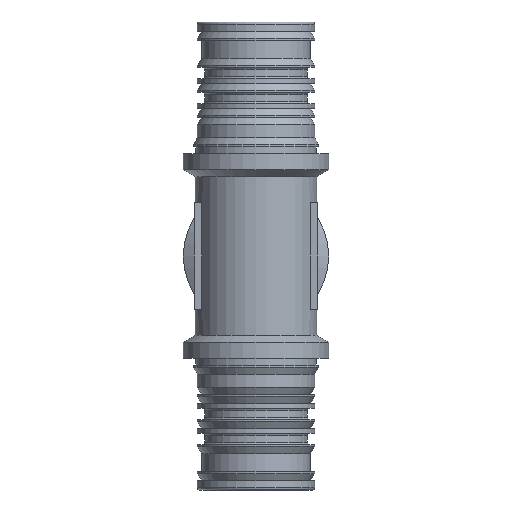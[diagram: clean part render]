
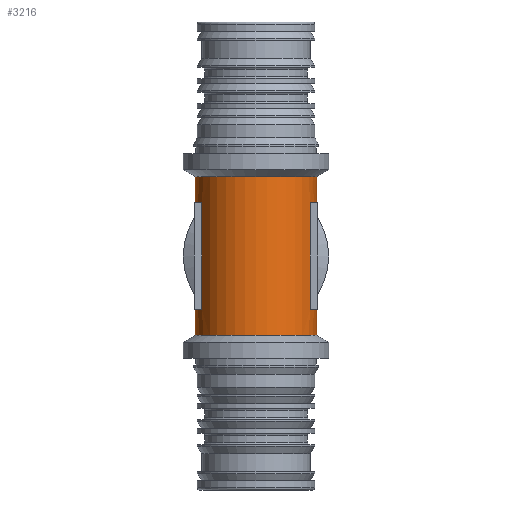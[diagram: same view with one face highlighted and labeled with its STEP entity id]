
A CAD part, front view. The second image highlights one B-rep face of the part: STEP entity #3216.
In plain terms, the highlighted cylindrical face has radius 13.35 mm (diameter 26.7 mm), a full revolution.
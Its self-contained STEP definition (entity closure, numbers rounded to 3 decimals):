
#188=ELLIPSE('',#3377,18.88,13.35);
#189=ELLIPSE('',#3379,18.88,13.35);
#190=ELLIPSE('',#3380,18.88,13.35);
#191=ELLIPSE('',#3382,18.88,13.35);
#236=FACE_OUTER_BOUND('',#427,.T.);
#427=EDGE_LOOP('',(#2369,#2370,#2371,#2372,#2373,#2374,#2375,#2376,#2377,
#2378,#2379,#2380,#2381,#2382,#2383,#2384,#2385,#2386,#2387,#2388,#2389,
#2390));
#644=LINE('',#5203,#850);
#645=LINE('',#5205,#851);
#646=LINE('',#5209,#852);
#647=LINE('',#5212,#853);
#648=LINE('',#5214,#854);
#649=LINE('',#5219,#855);
#650=LINE('',#5223,#856);
#651=LINE('',#5226,#857);
#850=VECTOR('',#4115,13.35);
#851=VECTOR('',#4116,10.);
#852=VECTOR('',#4119,10.);
#853=VECTOR('',#4122,10.);
#854=VECTOR('',#4123,13.35);
#855=VECTOR('',#4128,10.);
#856=VECTOR('',#4131,10.);
#857=VECTOR('',#4134,10.);
#1103=CIRCLE('',#3502,13.35);
#1104=CIRCLE('',#3503,13.35);
#1105=CIRCLE('',#3504,13.35);
#1106=CIRCLE('',#3505,13.35);
#1107=CIRCLE('',#3506,13.35);
#1108=CIRCLE('',#3507,13.35);
#1109=CIRCLE('',#3508,13.35);
#1110=CIRCLE('',#3509,13.35);
#1294=VERTEX_POINT('',#4955);
#1295=VERTEX_POINT('',#4957);
#1298=VERTEX_POINT('',#4963);
#1299=VERTEX_POINT('',#4965);
#1300=VERTEX_POINT('',#4967);
#1303=VERTEX_POINT('',#4973);
#1379=VERTEX_POINT('',#5199);
#1380=VERTEX_POINT('',#5200);
#1381=VERTEX_POINT('',#5204);
#1382=VERTEX_POINT('',#5206);
#1383=VERTEX_POINT('',#5208);
#1384=VERTEX_POINT('',#5210);
#1385=VERTEX_POINT('',#5213);
#1386=VERTEX_POINT('',#5215);
#1387=VERTEX_POINT('',#5218);
#1388=VERTEX_POINT('',#5220);
#1389=VERTEX_POINT('',#5222);
#1390=VERTEX_POINT('',#5224);
#1650=EDGE_CURVE('',#1295,#1294,#188,.T.);
#1654=EDGE_CURVE('',#1299,#1298,#189,.T.);
#1655=EDGE_CURVE('',#1300,#1299,#190,.T.);
#1659=EDGE_CURVE('',#1294,#1303,#191,.T.);
#1765=EDGE_CURVE('',#1379,#1380,#1103,.T.);
#1766=EDGE_CURVE('',#1380,#1379,#1104,.T.);
#1767=EDGE_CURVE('',#1380,#1294,#644,.T.);
#1768=EDGE_CURVE('',#1381,#1303,#645,.T.);
#1769=EDGE_CURVE('',#1382,#1381,#1105,.T.);
#1770=EDGE_CURVE('',#1383,#1382,#646,.T.);
#1771=EDGE_CURVE('',#1384,#1383,#1106,.T.);
#1772=EDGE_CURVE('',#1300,#1384,#647,.T.);
#1773=EDGE_CURVE('',#1299,#1385,#648,.T.);
#1774=EDGE_CURVE('',#1385,#1386,#1107,.T.);
#1775=EDGE_CURVE('',#1386,#1385,#1108,.T.);
#1776=EDGE_CURVE('',#1387,#1298,#649,.T.);
#1777=EDGE_CURVE('',#1388,#1387,#1109,.T.);
#1778=EDGE_CURVE('',#1389,#1388,#650,.T.);
#1779=EDGE_CURVE('',#1390,#1389,#1110,.T.);
#1780=EDGE_CURVE('',#1295,#1390,#651,.T.);
#2369=ORIENTED_EDGE('',*,*,#1765,.F.);
#2370=ORIENTED_EDGE('',*,*,#1766,.F.);
#2371=ORIENTED_EDGE('',*,*,#1767,.T.);
#2372=ORIENTED_EDGE('',*,*,#1659,.T.);
#2373=ORIENTED_EDGE('',*,*,#1768,.F.);
#2374=ORIENTED_EDGE('',*,*,#1769,.F.);
#2375=ORIENTED_EDGE('',*,*,#1770,.F.);
#2376=ORIENTED_EDGE('',*,*,#1771,.F.);
#2377=ORIENTED_EDGE('',*,*,#1772,.F.);
#2378=ORIENTED_EDGE('',*,*,#1655,.T.);
#2379=ORIENTED_EDGE('',*,*,#1773,.T.);
#2380=ORIENTED_EDGE('',*,*,#1774,.T.);
#2381=ORIENTED_EDGE('',*,*,#1775,.T.);
#2382=ORIENTED_EDGE('',*,*,#1773,.F.);
#2383=ORIENTED_EDGE('',*,*,#1654,.T.);
#2384=ORIENTED_EDGE('',*,*,#1776,.F.);
#2385=ORIENTED_EDGE('',*,*,#1777,.F.);
#2386=ORIENTED_EDGE('',*,*,#1778,.F.);
#2387=ORIENTED_EDGE('',*,*,#1779,.F.);
#2388=ORIENTED_EDGE('',*,*,#1780,.F.);
#2389=ORIENTED_EDGE('',*,*,#1650,.T.);
#2390=ORIENTED_EDGE('',*,*,#1767,.F.);
#3142=CYLINDRICAL_SURFACE('',#3501,13.35);
#3216=ADVANCED_FACE('',(#236),#3142,.T.);
#3377=AXIS2_PLACEMENT_3D('',#4958,#3828,#3829);
#3379=AXIS2_PLACEMENT_3D('',#4966,#3834,#3835);
#3380=AXIS2_PLACEMENT_3D('',#4968,#3836,#3837);
#3382=AXIS2_PLACEMENT_3D('',#4975,#3842,#3843);
#3501=AXIS2_PLACEMENT_3D('',#5198,#4109,#4110);
#3502=AXIS2_PLACEMENT_3D('',#5201,#4111,#4112);
#3503=AXIS2_PLACEMENT_3D('',#5202,#4113,#4114);
#3504=AXIS2_PLACEMENT_3D('',#5207,#4117,#4118);
#3505=AXIS2_PLACEMENT_3D('',#5211,#4120,#4121);
#3506=AXIS2_PLACEMENT_3D('',#5216,#4124,#4125);
#3507=AXIS2_PLACEMENT_3D('',#5217,#4126,#4127);
#3508=AXIS2_PLACEMENT_3D('',#5221,#4129,#4130);
#3509=AXIS2_PLACEMENT_3D('',#5225,#4132,#4133);
#3828=DIRECTION('center_axis',(0.,-0.707,0.707));
#3829=DIRECTION('ref_axis',(0.,-0.707,-0.707));
#3834=DIRECTION('center_axis',(0.,-0.707,-0.707));
#3835=DIRECTION('ref_axis',(0.,0.707,-0.707));
#3836=DIRECTION('center_axis',(0.,-0.707,-0.707));
#3837=DIRECTION('ref_axis',(0.,0.707,-0.707));
#3842=DIRECTION('center_axis',(0.,-0.707,0.707));
#3843=DIRECTION('ref_axis',(0.,-0.707,-0.707));
#4109=DIRECTION('center_axis',(0.,0.,1.));
#4110=DIRECTION('ref_axis',(0.,-1.,0.));
#4111=DIRECTION('center_axis',(0.,0.,1.));
#4112=DIRECTION('ref_axis',(1.,0.,0.));
#4113=DIRECTION('center_axis',(0.,0.,1.));
#4114=DIRECTION('ref_axis',(1.,0.,0.));
#4115=DIRECTION('',(0.,0.,-1.));
#4116=DIRECTION('',(0.,0.,-1.));
#4117=DIRECTION('center_axis',(0.,0.,-1.));
#4118=DIRECTION('ref_axis',(0.,-1.,0.));
#4119=DIRECTION('',(0.,0.,1.));
#4120=DIRECTION('center_axis',(0.,0.,1.));
#4121=DIRECTION('ref_axis',(0.,-1.,0.));
#4122=DIRECTION('',(0.,0.,-1.));
#4123=DIRECTION('',(0.,0.,-1.));
#4124=DIRECTION('center_axis',(0.,0.,1.));
#4125=DIRECTION('ref_axis',(1.,0.,0.));
#4126=DIRECTION('center_axis',(0.,0.,1.));
#4127=DIRECTION('ref_axis',(1.,0.,0.));
#4128=DIRECTION('',(0.,0.,1.));
#4129=DIRECTION('center_axis',(0.,0.,1.));
#4130=DIRECTION('ref_axis',(0.,-1.,0.));
#4131=DIRECTION('',(0.,0.,-1.));
#4132=DIRECTION('center_axis',(0.,0.,-1.));
#4133=DIRECTION('ref_axis',(0.,-1.,0.));
#4134=DIRECTION('',(0.,0.,1.));
#4955=CARTESIAN_POINT('',(0.,13.35,64.85));
#4957=CARTESIAN_POINT('',(11.926,6.,57.5));
#4958=CARTESIAN_POINT('Origin',(0.,0.,51.5));
#4963=CARTESIAN_POINT('',(11.926,6.,45.5));
#4965=CARTESIAN_POINT('',(0.,13.35,38.15));
#4966=CARTESIAN_POINT('Origin',(0.,0.,51.5));
#4967=CARTESIAN_POINT('',(-11.926,6.,45.5));
#4968=CARTESIAN_POINT('Origin',(0.,0.,51.5));
#4973=CARTESIAN_POINT('',(-11.926,6.,57.5));
#4975=CARTESIAN_POINT('Origin',(0.,0.,51.5));
#5198=CARTESIAN_POINT('Origin',(0.,0.,60.235));
#5199=CARTESIAN_POINT('',(0.,-13.35,68.97));
#5200=CARTESIAN_POINT('',(0.,13.35,68.97));
#5201=CARTESIAN_POINT('Origin',(0.,0.,68.97));
#5202=CARTESIAN_POINT('Origin',(0.,0.,68.97));
#5203=CARTESIAN_POINT('',(0.,13.35,60.235));
#5204=CARTESIAN_POINT('',(-11.926,6.,63.25));
#5205=CARTESIAN_POINT('',(-11.926,6.,60.235));
#5206=CARTESIAN_POINT('',(-11.926,-6.,63.25));
#5207=CARTESIAN_POINT('Origin',(0.,0.,63.25));
#5208=CARTESIAN_POINT('',(-11.926,-6.,39.75));
#5209=CARTESIAN_POINT('',(-11.926,-6.,60.235));
#5210=CARTESIAN_POINT('',(-11.926,6.,39.75));
#5211=CARTESIAN_POINT('Origin',(0.,0.,39.75));
#5212=CARTESIAN_POINT('',(-11.926,6.,60.235));
#5213=CARTESIAN_POINT('',(0.,13.35,34.03));
#5214=CARTESIAN_POINT('',(0.,13.35,60.235));
#5215=CARTESIAN_POINT('',(0.,-13.35,34.03));
#5216=CARTESIAN_POINT('Origin',(0.,0.,34.03));
#5217=CARTESIAN_POINT('Origin',(0.,0.,34.03));
#5218=CARTESIAN_POINT('',(11.926,6.,39.75));
#5219=CARTESIAN_POINT('',(11.926,6.,60.235));
#5220=CARTESIAN_POINT('',(11.926,-6.,39.75));
#5221=CARTESIAN_POINT('Origin',(0.,0.,39.75));
#5222=CARTESIAN_POINT('',(11.926,-6.,63.25));
#5223=CARTESIAN_POINT('',(11.926,-6.,60.235));
#5224=CARTESIAN_POINT('',(11.926,6.,63.25));
#5225=CARTESIAN_POINT('Origin',(0.,0.,63.25));
#5226=CARTESIAN_POINT('',(11.926,6.,60.235));
